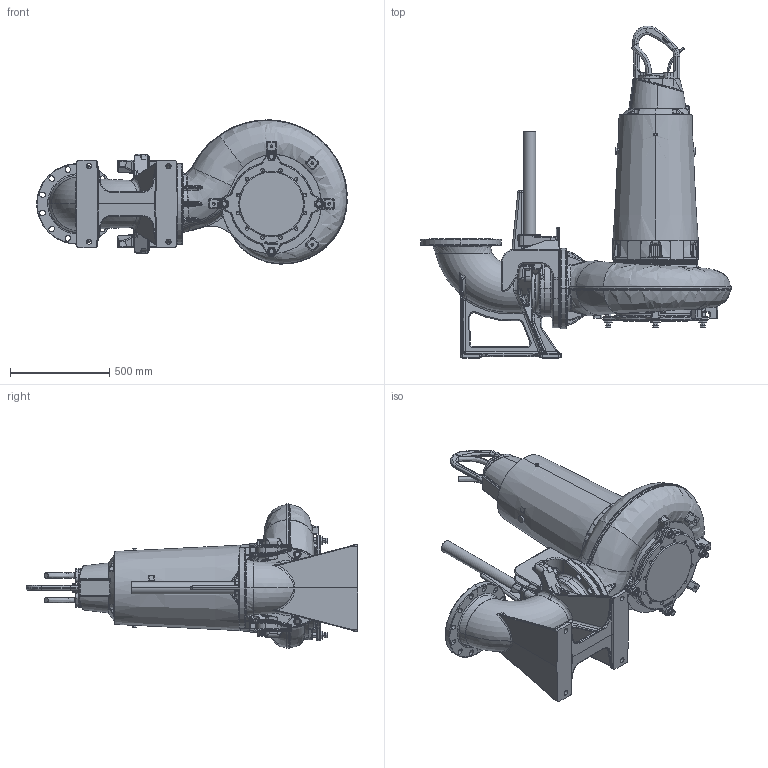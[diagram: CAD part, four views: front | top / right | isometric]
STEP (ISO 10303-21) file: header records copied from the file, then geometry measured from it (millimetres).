
FILE_DESCRIPTION (( 'STEP AP214' ), '1' );
FILE_NAME ('PE4_XFP250J-CB2_WET_A_NG2.STEP', '2017-02-02T11:37:49', ( '' ), ( '' ), 'SwSTEP 2.0', 'SolidWorks 2017', '' );
FILE_SCHEMA (( 'AUTOMOTIVE_DESIGN' ));
Length unit declared in the file: millimetre
Products named in the file (1): PE4_XFP250J-CB2_WET_A_NG2
Bounding box: 1561.43 x 1668.44 x 724.27 mm (x, y, z)
Volume: 262807145.2 mm3; surface area: 5539135.1 mm2
Topology: 3 solids, 20 shells, 4408 faces, 10899 edges, 6465 vertices
Faces by surface type: bspline 1333, cylinder 1214, plane 1048, cone 364, torus 332, sphere 117
Entity records: 350244 total; most frequent: CARTESIAN_POINT 208862, ORIENTED_EDGE 21462, DIRECTION 16821, EDGE_CURVE 10731, AXIS2_PLACEMENT_3D 6685, VERTEX_POINT 6463, EDGE_LOOP 4654, UNCERTAINTY_MEASURE_WITH_UNIT 4413
